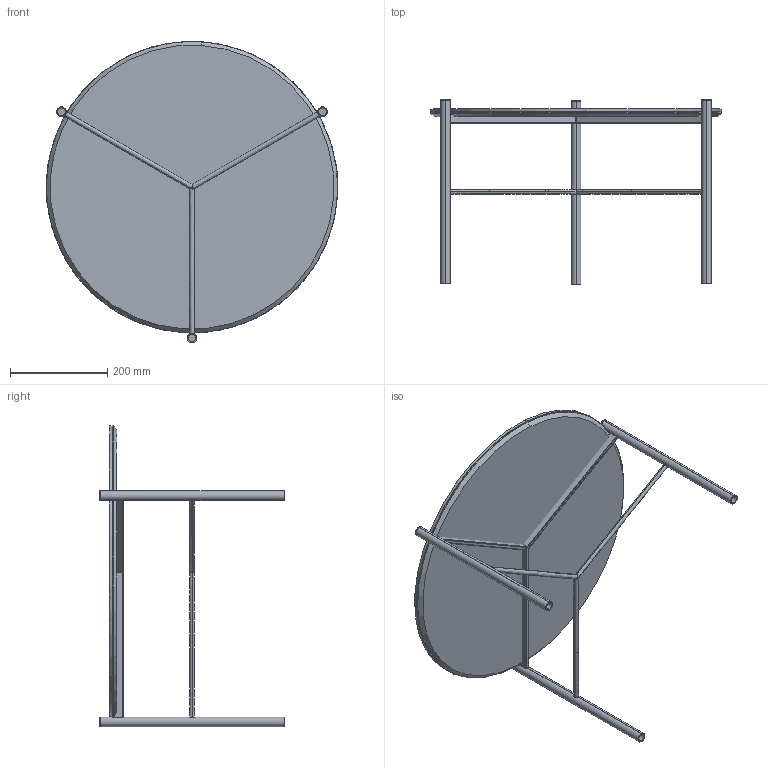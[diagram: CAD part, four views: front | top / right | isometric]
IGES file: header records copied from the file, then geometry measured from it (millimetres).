
Start section: SolidWorks IGES file using analytic representation for surfaces
Global section: file name: Y:\eforma\TECNICO\SOLIDWORKS\E-FORMA\2-TAVOLINI\JACK\02 parts\J201C.IGS; native system: SolidWorks 2022; preprocessor: SolidWorks 2022; author: eforma.tech; date: 240806.134331; units: millimetre
Bounding box: 599.97 x 379 x 620.07 mm (x, y, z)
Volume: 5512841.3 mm3; surface area: 1996111.4 mm2
Topology: 15 solids, 15 shells, 131 faces, 303 edges, 200 vertices
Faces by surface type: revolution 77, plane 54
